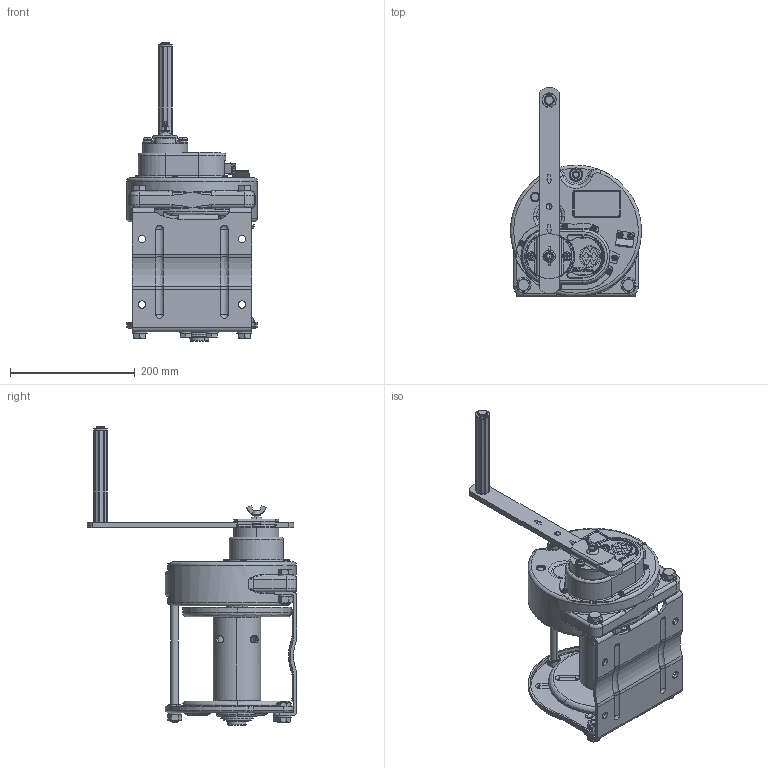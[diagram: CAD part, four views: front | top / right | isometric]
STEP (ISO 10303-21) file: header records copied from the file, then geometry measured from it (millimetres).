
FILE_DESCRIPTION( (''), '2;1');
FILE_NAME ('GM-5-GS.stp','2023-12-22T14:46:32',(''),(''),'spGate 19.8.2 (****-****-****-****)','','');
FILE_SCHEMA (('AUTOMOTIVE_DESIGN'));
Length unit declared in the file: millimetre
Products named in the file (3): Assembly; GM-5-GS-prt0; GM-5-GS-prt1
Assembly tree (2 placements, depth 2):
  Assembly
    GM-5-GS-prt0
    GM-5-GS-prt1
Bounding box: 209.96 x 335.43 x 478.1 mm (x, y, z)
Volume: 3869176 mm3; surface area: 650667.1 mm2
Topology: 2 solids, 2 shells, 2627 faces, 6758 edges, 4233 vertices
Faces by surface type: plane 1235, cylinder 869, bspline 459, sphere 64
Entity records: 144102 total; most frequent: CARTESIAN_POINT 28019, ORIENTED_EDGE 13412, DIRECTION 12889, COLOUR_RGB 9335, PRESENTATION_STYLE_ASSIGNMENT 9335, STYLED_ITEM 9335, EDGE_CURVE 6706, DRAUGHTING_PRE_DEFINED_CURVE_FONT 6706
